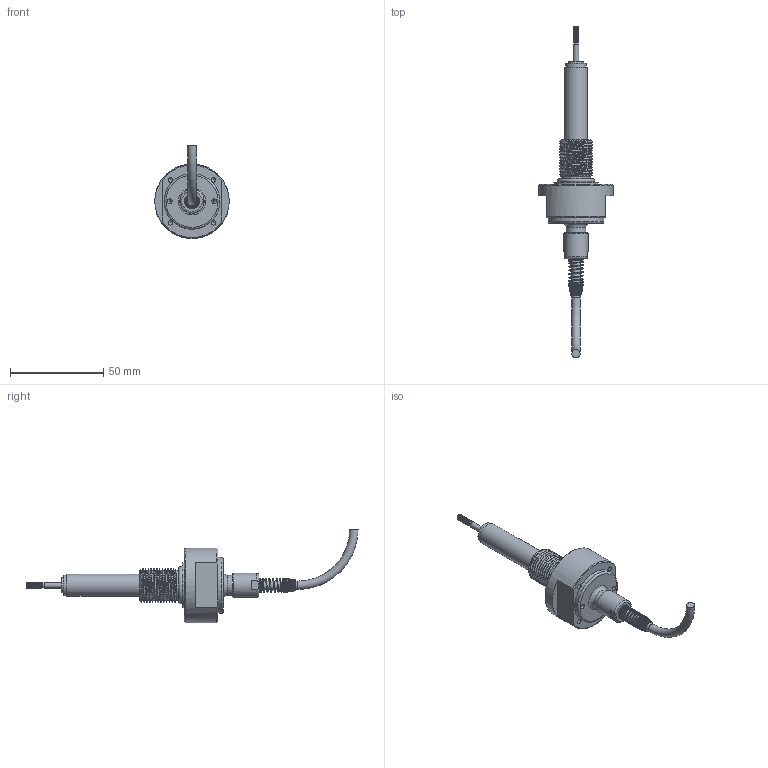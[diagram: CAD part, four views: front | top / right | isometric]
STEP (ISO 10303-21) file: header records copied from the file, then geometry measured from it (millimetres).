
FILE_DESCRIPTION( ( 'STEP AP203' ), '1' );
FILE_NAME( 'N:/Engineering/CAD_Solid/LVDT/HYD/Kunden-3D-Modell/SM10-HYD-18-K.stp', '2012-10-30T14:29:58', ( ' ' ), ( ' ' ), 'XStep 1.0', ' ', ' ' );
FILE_SCHEMA( ( 'CONFIG_CONTROL_DESIGN) ( )' ) );
Length unit declared in the file: metre
Products named in the file (12): 1; 2; 3; 4; 5; 6; 7; 8; 9; 10; 11; 12
Bounding box: 40 x 178.25 x 50 mm (x, y, z)
Volume: 1245.1 mm3; surface area: 14360.4 mm2
Topology: 2 solids, 79 shells, 84 faces, 303 edges, 259 vertices
Faces by surface type: plane 26, cylinder 23, cone 18, bspline 12, torus 5
Full cylindrical faces by diameter (mm): 2.4 x1, 2.5 x4, 2.6 x2, 3 x1, 4 x1, 4.5 x1, 6 x1, 8 x1, 8.2 x1, 10.6 x1, 11 x1, 12 x1, 13 x1, 15.8 x1, 24 x1, 30 x1, 40 x1
Entity records: 15684 total; most frequent: CARTESIAN_POINT 13062, DIRECTION 482, ORIENTED_EDGE 238, EDGE_CURVE 233, VERTEX_POINT 233, AXIS2_PLACEMENT_3D 227, CIRCLE 144, EDGE_LOOP 141
